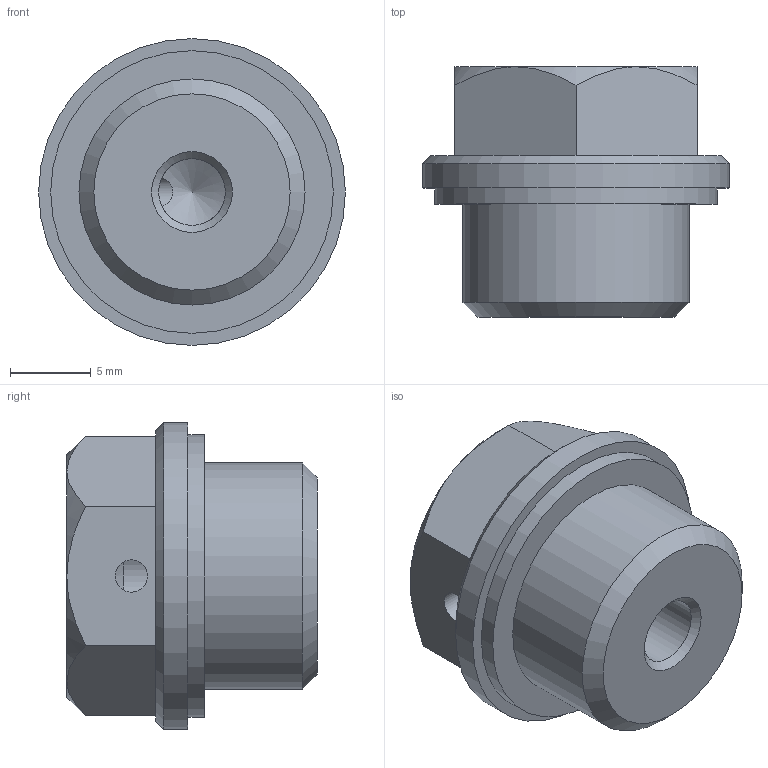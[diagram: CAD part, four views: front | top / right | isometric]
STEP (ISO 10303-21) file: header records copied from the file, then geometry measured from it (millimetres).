
FILE_DESCRIPTION( ( 'STEP AP203' ), '1' );
FILE_NAME( 'C:/Temp/Ganter_Step_05_03_2020/data/3_5/gn742/gn742_2/Threaded plug GN 742-19-M14x1,5-OSS-2.stp', '2020-03-12T13:39:46', ( 'License CC BY-ND 4.0' ), ( 'CADENAS' ), ' ', 'PARTsolutions', ' ' );
FILE_SCHEMA( ( 'CONFIG_CONTROL_DESIGN' ) );
Length unit declared in the file: millimetre
Products named in the file (1): _Threaded plug GN 742-19-M14x1,5-OSS-2
Bounding box: 19 x 15.5 x 19 mm (x, y, z)
Volume: 2740.2 mm3; surface area: 1463.3 mm2
Topology: 1 solids, 1 shells, 26 faces, 56 edges, 34 vertices
Faces by surface type: plane 11, cone 10, cylinder 5
Full cylindrical faces by diameter (mm): 2 x1, 4.134 x1, 14 x1, 17.5 x1, 19 x1
Entity records: 772 total; most frequent: CARTESIAN_POINT 225, DIRECTION 102, ORIENTED_EDGE 88, AXIS2_PLACEMENT_3D 45, EDGE_CURVE 44, EDGE_LOOP 39, VERTEX_POINT 32, FACE_OUTER_BOUND 31
